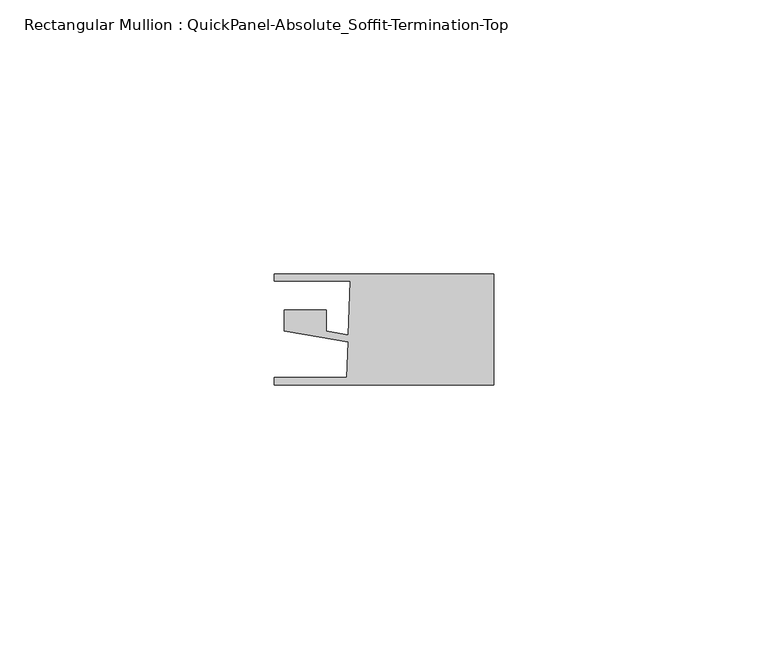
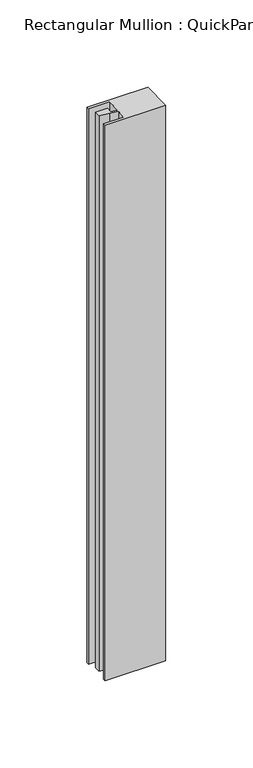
"""IFC4 building model written with IfcOpenShell, lengths in millimetres: member geometry, Rectangular Mullion : QuickPanel-Absolute_Soffit-Termination-Top."""

from ifc_helpers import new_model, si_unit, frame, origin, place, context, project, spatial, polyline, outline, extrude, source, transform, mapped, element, save


def rectangular_mullion_quickpanel_absolute_soffit_termination_359a7f8f(model_context):
    return source(origin(), model_context, "Body", "SweptSolid", [
        extrude(outline(polyline([(-40.0272216, -8.095605), (-40.0272216, -6.6935423), (-26.7863089, -6.6935423), (-26.5595237, -0.1992641), (-31.8098046, 0.7008023), (-38.2451373, 1.8040245), (-38.2451373, 5.6493034), (-30.5003642, 5.6493034), (-30.5003642, 1.7648465), (-26.5147952, 1.0815922), (-26.1708682, 10.9303752), (-40.0272216, 10.9303752), (-40.0272216, 12.1803727), (0.0, 12.1803727), (0.0, -8.095605), (-40.0272216, -8.095605)])), frame((0.0, 0.0, -387.814328), z_axis=(0.0, 0.0, 1.0), x_axis=(1.0, 0.0, 0.0)), (0.0, 0.0, 1.0), 387.814328),
    ])


if __name__ == "__main__":
    model = new_model("IFC4")
    model_context = context("Model", 3, world=origin())
    ifc_project = project(units=[si_unit("LENGTHUNIT", "METRE", prefix="MILLI")], contexts=[model_context])
    site = spatial("IfcSite", under=ifc_project)
    building = spatial("IfcBuilding", under=site)
    placement = place(None, origin())
    rectangular_mullion_quickpanel_absolute_soffit_termination_shape = rectangular_mullion_quickpanel_absolute_soffit_termination_359a7f8f(model_context)
    element("IfcMember", 1, ObjectType="Rectangular Mullion : QuickPanel-Absolute_Soffit-Termination-Top", at=placement, inside=building, context=model_context, shape_type="MappedRepresentation", body=[
        mapped(rectangular_mullion_quickpanel_absolute_soffit_termination_shape, transform((0.0, 0.0, 0.0), x_axis=(1.0, 0.0, 0.0), y_axis=(0.0, 1.0, 0.0), z_axis=(0.0, 0.0, 1.0))),
    ])
    save(model, "model.ifc")
